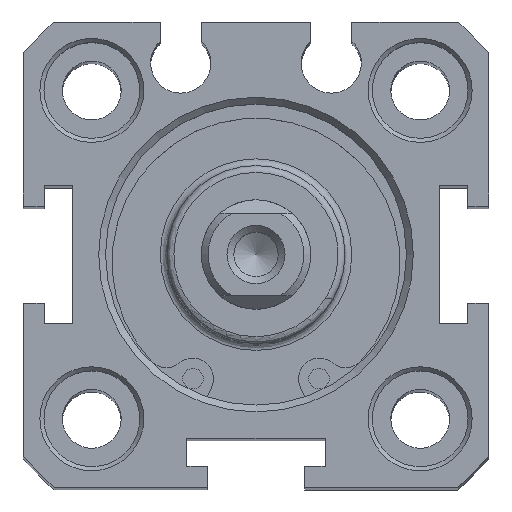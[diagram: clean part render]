
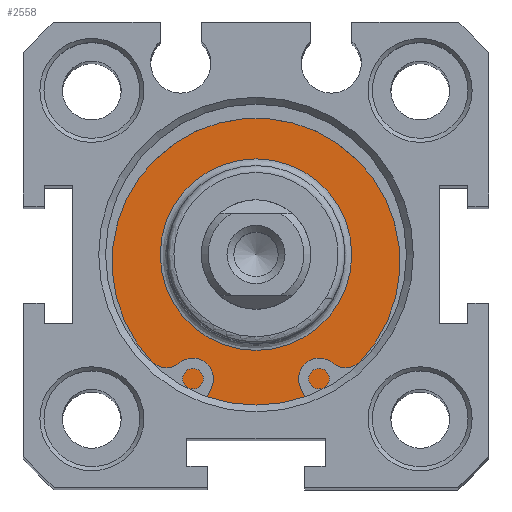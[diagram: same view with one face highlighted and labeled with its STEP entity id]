
A CAD part, top view. The second image highlights one B-rep face of the part: STEP entity #2558.
In plain terms, the highlighted planar face has unit normal (0, 0, 1).
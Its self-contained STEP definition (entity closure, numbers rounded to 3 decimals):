
#2507=CARTESIAN_POINT('',(0.24,8.683,116.8));
#2508=VERTEX_POINT('',#2507);
#2509=CARTESIAN_POINT('',(0.24,1.683,116.8));
#2510=DIRECTION('',(0.0,0.0,1.0));
#2511=DIRECTION('',(0.0,-1.0,0.0));
#2512=AXIS2_PLACEMENT_3D('',#2509,#2510,#2511);
#2513=CIRCLE('',#2512,7.);
#2514=EDGE_CURVE('',#2508,#2508,#2513,.T.);
#2539=CARTESIAN_POINT('',(0.24,10.433,116.8));
#2540=DIRECTION('',(0.0,0.0,1.0));
#2541=DIRECTION('',(1.0,0.0,0.0));
#2542=AXIS2_PLACEMENT_3D('',#2539,#2540,#2541);
#2543=PLANE('',#2542);
#2544=CARTESIAN_POINT('',(0.24,12.683,116.8));
#2545=VERTEX_POINT('',#2544);
#2546=CARTESIAN_POINT('',(0.24,1.683,116.8));
#2547=DIRECTION('',(0.0,0.0,-1.0));
#2548=DIRECTION('',(0.0,1.0,0.0));
#2549=AXIS2_PLACEMENT_3D('',#2546,#2547,#2548);
#2550=CIRCLE('',#2549,11.);
#2551=EDGE_CURVE('',#2545,#2545,#2550,.T.);
#2552=ORIENTED_EDGE('',*,*,#2551,.F.);
#2553=EDGE_LOOP('',(#2552));
#2554=FACE_OUTER_BOUND('',#2553,.T.);
#2555=ORIENTED_EDGE('',*,*,#2514,.F.);
#2556=EDGE_LOOP('',(#2555));
#2557=FACE_BOUND('',#2556,.T.);
#2558=ADVANCED_FACE('',(#2554,#2557),#2543,.T.);
